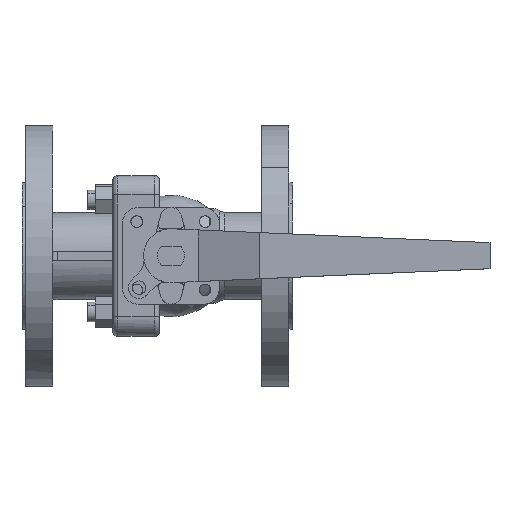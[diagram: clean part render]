
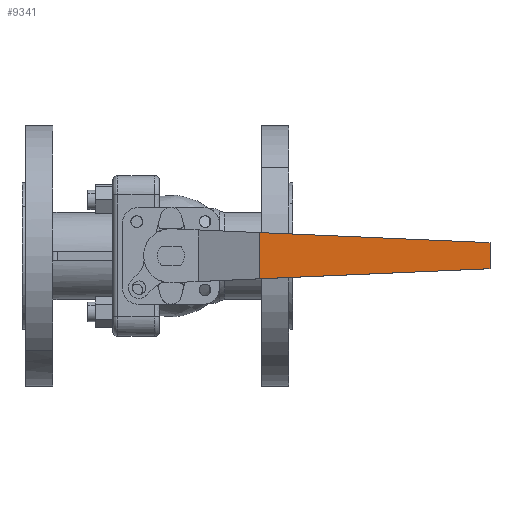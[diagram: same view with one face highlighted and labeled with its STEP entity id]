
A CAD part, top view. The second image highlights one B-rep face of the part: STEP entity #9341.
In plain terms, the highlighted free-form (B-spline) face has degree [1, 1] with [2, 2] control points.
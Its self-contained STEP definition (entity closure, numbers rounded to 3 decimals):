
#9283=CARTESIAN_POINT('',(45.921,94.,-11.945));
#9284=VERTEX_POINT('',#9283);
#9299=CARTESIAN_POINT('',(45.921,94.,11.945));
#9300=VERTEX_POINT('',#9299);
#9306=CARTESIAN_POINT('',(45.921,94.,11.945));
#9307=CARTESIAN_POINT('',(45.921,94.,-11.945));
#9308=QUASI_UNIFORM_CURVE('',1,(#9306,#9307),.UNSPECIFIED.,.F.,.U.);
#9309=EDGE_CURVE('',#9300,#9284,#9308,.T.);
#9314=CARTESIAN_POINT('',(39.973,94.,-13.138));
#9315=CARTESIAN_POINT('',(170.948,94.,-13.138));
#9316=CARTESIAN_POINT('',(39.973,94.,13.138));
#9317=CARTESIAN_POINT('',(170.948,94.,13.138));
#9318=B_SPLINE_SURFACE_WITH_KNOTS('',1,1,((#9314,#9316),(#9315,#9317)),.UNSPECIFIED.,.F.,.F.,.U.,(2,2),(2,2),(0.,130.975),(0.,26.277),.UNSPECIFIED.);
#9319=CARTESIAN_POINT('',(165.,94.,-6.746));
#9320=VERTEX_POINT('',#9319);
#9321=CARTESIAN_POINT('',(165.,94.,-6.746));
#9322=CARTESIAN_POINT('',(45.921,94.,-11.945));
#9323=QUASI_UNIFORM_CURVE('',1,(#9321,#9322),.UNSPECIFIED.,.F.,.U.);
#9324=EDGE_CURVE('',#9320,#9284,#9323,.T.);
#9325=ORIENTED_EDGE('',*,*,#9324,.T.);
#9326=ORIENTED_EDGE('',*,*,#9309,.F.);
#9327=CARTESIAN_POINT('',(165.,94.,6.746));
#9328=VERTEX_POINT('',#9327);
#9329=CARTESIAN_POINT('',(165.,94.,6.746));
#9330=CARTESIAN_POINT('',(45.921,94.,11.945));
#9331=QUASI_UNIFORM_CURVE('',1,(#9329,#9330),.UNSPECIFIED.,.F.,.U.);
#9332=EDGE_CURVE('',#9328,#9300,#9331,.T.);
#9333=ORIENTED_EDGE('',*,*,#9332,.F.);
#9334=CARTESIAN_POINT('',(165.,94.,6.746));
#9335=CARTESIAN_POINT('',(165.,94.,-6.746));
#9336=QUASI_UNIFORM_CURVE('',1,(#9334,#9335),.UNSPECIFIED.,.F.,.U.);
#9337=EDGE_CURVE('',#9328,#9320,#9336,.T.);
#9338=ORIENTED_EDGE('',*,*,#9337,.T.);
#9339=EDGE_LOOP('',(#9325,#9326,#9333,#9338));
#9340=FACE_OUTER_BOUND('',#9339,.T.);
#9341=ADVANCED_FACE('',(#9340),#9318,.F.);
